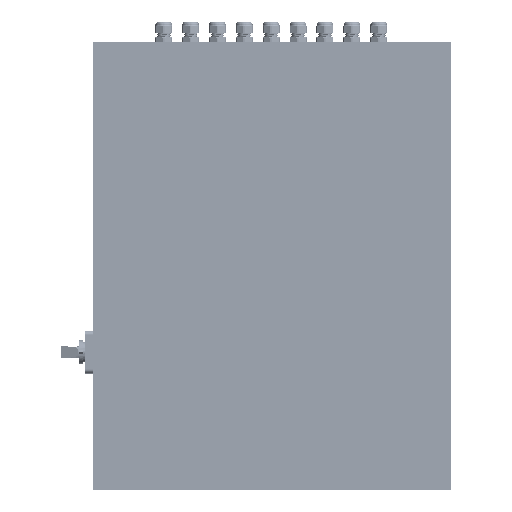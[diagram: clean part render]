
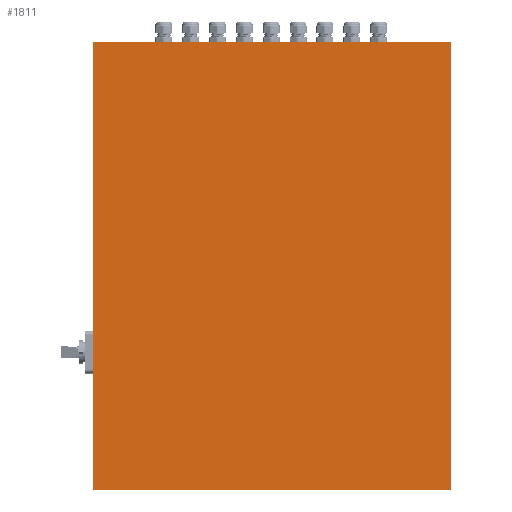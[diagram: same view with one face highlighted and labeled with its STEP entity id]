
A CAD part, front view. The second image highlights one B-rep face of the part: STEP entity #1811.
In plain terms, the highlighted planar face has unit normal (0, -1, 0) as drawn and (0, 0, -1) by its records, which use the part's own axes.
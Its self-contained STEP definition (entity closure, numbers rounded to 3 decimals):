
#450=DIRECTION('',(0.,-1.,0.));
#451=VECTOR('',#450,500.);
#452=CARTESIAN_POINT('',(-200.,500.,-105.));
#453=LINE('',#452,#451);
#466=DIRECTION('',(1.,0.,0.));
#467=VECTOR('',#466,400.);
#468=CARTESIAN_POINT('',(-200.,0.,-105.));
#469=LINE('',#468,#467);
#502=DIRECTION('',(0.,-1.,0.));
#503=VECTOR('',#502,500.);
#504=CARTESIAN_POINT('',(200.,500.,-105.));
#505=LINE('',#504,#503);
#506=DIRECTION('',(1.,0.,0.));
#507=VECTOR('',#506,400.);
#508=CARTESIAN_POINT('',(-200.,500.,-105.));
#509=LINE('',#508,#507);
#1030=CARTESIAN_POINT('',(-200.,0.,-105.));
#1031=VERTEX_POINT('',#1030);
#1032=CARTESIAN_POINT('',(200.,0.,-105.));
#1033=VERTEX_POINT('',#1032);
#1094=CARTESIAN_POINT('',(-200.,500.,-105.));
#1095=VERTEX_POINT('',#1094);
#1096=CARTESIAN_POINT('',(200.,500.,-105.));
#1097=VERTEX_POINT('',#1096);
#1800=CARTESIAN_POINT('',(200.,0.,-105.));
#1801=DIRECTION('',(0.,0.,-1.));
#1802=DIRECTION('',(-1.,0.,0.));
#1803=AXIS2_PLACEMENT_3D('',#1800,#1801,#1802);
#1804=PLANE('',#1803);
#1805=ORIENTED_EDGE('',*,*,#1776,.T.);
#1806=ORIENTED_EDGE('',*,*,#1734,.F.);
#1807=ORIENTED_EDGE('',*,*,#1749,.F.);
#1808=ORIENTED_EDGE('',*,*,#1763,.T.);
#1809=EDGE_LOOP('',(#1805,#1806,#1807,#1808));
#1810=FACE_OUTER_BOUND('',#1809,.F.);
#1811=ADVANCED_FACE('',(#1810),#1804,.T.);
#1734=EDGE_CURVE('',#1097,#1033,#505,.T.);
#1749=EDGE_CURVE('',#1095,#1097,#509,.T.);
#1763=EDGE_CURVE('',#1095,#1031,#453,.T.);
#1776=EDGE_CURVE('',#1031,#1033,#469,.T.);
